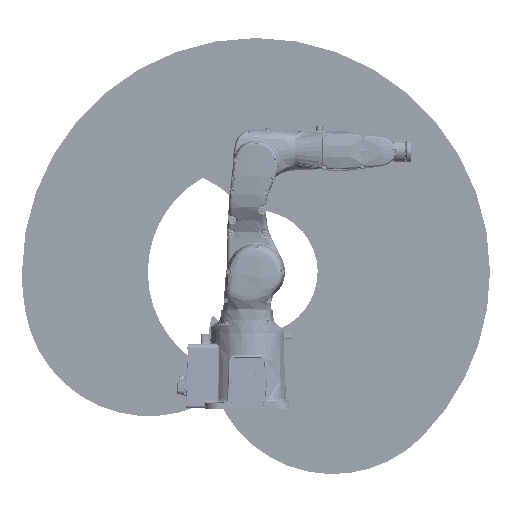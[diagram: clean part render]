
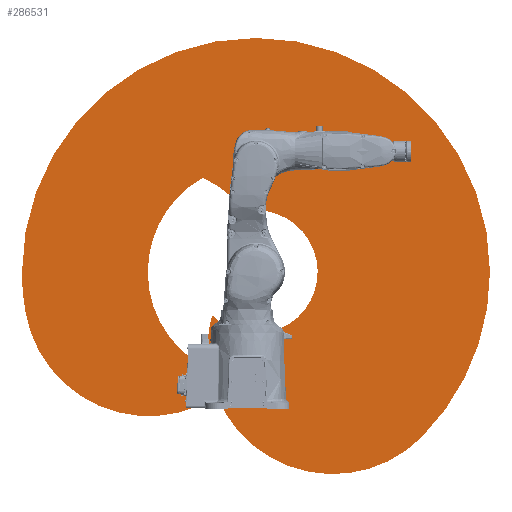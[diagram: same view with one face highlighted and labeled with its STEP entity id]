
A CAD part, top view. The second image highlights one B-rep face of the part: STEP entity #286531.
In plain terms, the highlighted planar face has unit normal (0, 0, 1).
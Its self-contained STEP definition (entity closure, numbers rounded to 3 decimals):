
#11067 = AXIS2_PLACEMENT_3D ( 'NONE', #466625, #466613, #466652 ) ;
#62966 = DIRECTION ( 'NONE',  ( 1., 0., 0. ) ) ;
#63096 = CARTESIAN_POINT ( 'NONE',  ( 249.86, 175.14, -198.5 ) ) ;
#63137 = DIRECTION ( 'NONE',  ( 0., 0., 1. ) ) ;
#63474 = DIRECTION ( 'NONE',  ( 0., 0., -1. ) ) ;
#63549 = CARTESIAN_POINT ( 'NONE',  ( 249.86, 175.14, -198.5 ) ) ;
#63618 = DIRECTION ( 'NONE',  ( 1., 0., 0. ) ) ;
#286531 = ADVANCED_FACE ( 'NONE', ( #466404, #466470 ), #466412, .T. ) ;
#286535 = CARTESIAN_POINT ( 'NONE',  ( 25., 400., -198.5 ) ) ;
#286778 = DIRECTION ( 'NONE',  ( 1., 0., 0. ) ) ;
#286871 = DIRECTION ( 'NONE',  ( 0., 0., 1. ) ) ;
#288110 = DIRECTION ( 'NONE',  ( 1., 0., 0. ) ) ;
#288158 = DIRECTION ( 'NONE',  ( 0., 0., 1. ) ) ;
#288232 = CARTESIAN_POINT ( 'NONE',  ( 25., 400., -198.5 ) ) ;
#298031 = CARTESIAN_POINT ( 'NONE',  ( -111.762, 114.478, -198.5 ) ) ;
#298396 = CARTESIAN_POINT ( 'NONE',  ( 709.674, 400., -198.5 ) ) ;
#299406 = CARTESIAN_POINT ( 'NONE',  ( 509.138, -84.138, -198.5 ) ) ;
#299450 = CARTESIAN_POINT ( 'NONE',  ( -291.585, 400., -198.5 ) ) ;
#299613 = CARTESIAN_POINT ( 'NONE',  ( -130.442, 675.797, -198.5 ) ) ;
#299709 = CIRCLE ( 'NONE', #299739, 684.674 ) ;
#299739 = AXIS2_PLACEMENT_3D ( 'NONE', #673186, #673269, #673289 ) ;
#299900 = CARTESIAN_POINT ( 'NONE',  ( -5.142, 577.902, -198.5 ) ) ;
#300508 = CARTESIAN_POINT ( 'NONE',  ( -116.814, 175.14, -198.5 ) ) ;
#301258 = CARTESIAN_POINT ( 'NONE',  ( -649.273, 281.108, -198.5 ) ) ;
#301475 = CARTESIAN_POINT ( 'NONE',  ( -103.44, 273.269, -198.5 ) ) ;
#301602 = CARTESIAN_POINT ( 'NONE',  ( -659.674, 400., -198.5 ) ) ;
#301937 = CARTESIAN_POINT ( 'NONE',  ( -89.604, 36.524, -198.5 ) ) ;
#312813 = AXIS2_PLACEMENT_3D ( 'NONE', #286535, #286871, #286778 ) ;
#312922 = AXIS2_PLACEMENT_3D ( 'NONE', #288232, #288158, #288110 ) ;
#313020 = CIRCLE ( 'NONE', #312813, 180.437 ) ;
#313037 = CIRCLE ( 'NONE', #312922, 316.585 ) ;
#313371 = CIRCLE ( 'NONE', #313376, 684.674 ) ;
#313376 = AXIS2_PLACEMENT_3D ( 'NONE', #506929, #506749, #507006 ) ;
#315423 = CIRCLE ( 'NONE', #315659, 316.585 ) ;
#315659 = AXIS2_PLACEMENT_3D ( 'NONE', #644036, #643991, #644112 ) ;
#315706 = CIRCLE ( 'NONE', #315776, 366.674 ) ;
#315776 = AXIS2_PLACEMENT_3D ( 'NONE', #644518, #644492, #644611 ) ;
#316033 = CIRCLE ( 'NONE', #316291, 366.674 ) ;
#316291 = AXIS2_PLACEMENT_3D ( 'NONE', #645571, #645594, #645563 ) ;
#317486 = AXIS2_PLACEMENT_3D ( 'NONE', #63096, #63137, #62966 ) ;
#317537 = CIRCLE ( 'NONE', #317486, 366.674 ) ;
#317578 = AXIS2_PLACEMENT_3D ( 'NONE', #63549, #63474, #63618 ) ;
#317603 = AXIS2_PLACEMENT_3D ( 'NONE', #535694, #536085, #644505 ) ;
#317696 = CIRCLE ( 'NONE', #317578, 366.674 ) ;
#317812 = CIRCLE ( 'NONE', #317603, 366.674 ) ;
#364210 = EDGE_CURVE ( 'NONE', #612414, #613285, #705583, .T. ) ;
#432569 = EDGE_CURVE ( 'NONE', #613285, #613230, #299709, .T. ) ;
#432879 = EDGE_CURVE ( 'NONE', #612659, #612675, #315423, .T. ) ;
#432997 = EDGE_CURVE ( 'NONE', #612336, #613022, #315706, .T. ) ;
#433190 = EDGE_CURVE ( 'NONE', #612792, #612659, #316033, .T. ) ;
#433621 = EDGE_CURVE ( 'NONE', #613230, #613398, #317812, .T. ) ;
#433641 = EDGE_CURVE ( 'NONE', #613398, #612717, #317537, .T. ) ;
#433715 = EDGE_CURVE ( 'NONE', #613022, #613316, #317696, .T. ) ;
#434112 = EDGE_CURVE ( 'NONE', #613316, #612792, #313020, .T. ) ;
#434215 = EDGE_CURVE ( 'NONE', #612675, #612336, #313037, .T. ) ;
#434466 = EDGE_CURVE ( 'NONE', #612717, #612414, #313371, .T. ) ;
#466404 = FACE_OUTER_BOUND ( 'NONE', #621617, .T. ) ;
#466412 = PLANE ( 'NONE',  #11067 ) ;
#466470 = FACE_BOUND ( 'NONE', #621367, .T. ) ;
#466613 = DIRECTION ( 'NONE',  ( 0., 0., 1. ) ) ;
#466625 = CARTESIAN_POINT ( 'NONE',  ( -19.154, 259.96, -198.5 ) ) ;
#466652 = DIRECTION ( 'NONE',  ( 1., 0., 0. ) ) ;
#474344 = ORIENTED_EDGE ( 'NONE', *, *, #434466, .T. ) ;
#474483 = ORIENTED_EDGE ( 'NONE', *, *, #433641, .T. ) ;
#474623 = ORIENTED_EDGE ( 'NONE', *, *, #432997, .F. ) ;
#474655 = ORIENTED_EDGE ( 'NONE', *, *, #364210, .T. ) ;
#474665 = ORIENTED_EDGE ( 'NONE', *, *, #433190, .F. ) ;
#474678 = ORIENTED_EDGE ( 'NONE', *, *, #432569, .T. ) ;
#474822 = ORIENTED_EDGE ( 'NONE', *, *, #434112, .F. ) ;
#474829 = ORIENTED_EDGE ( 'NONE', *, *, #434215, .F. ) ;
#474832 = ORIENTED_EDGE ( 'NONE', *, *, #432879, .F. ) ;
#475002 = ORIENTED_EDGE ( 'NONE', *, *, #433715, .F. ) ;
#475089 = ORIENTED_EDGE ( 'NONE', *, *, #433621, .T. ) ;
#487568 = CARTESIAN_POINT ( 'NONE',  ( 25., 400., -198.5 ) ) ;
#487588 = DIRECTION ( 'NONE',  ( 1., 0., 0. ) ) ;
#487729 = DIRECTION ( 'NONE',  ( 0., 0., 1. ) ) ;
#506749 = DIRECTION ( 'NONE',  ( 0., 0., 1. ) ) ;
#506929 = CARTESIAN_POINT ( 'NONE',  ( 25., 400., -198.5 ) ) ;
#507006 = DIRECTION ( 'NONE',  ( 1., 0., 0. ) ) ;
#535694 = CARTESIAN_POINT ( 'NONE',  ( -288.169, 344.78, -198.5 ) ) ;
#536085 = DIRECTION ( 'NONE',  ( 0., 0., 1. ) ) ;
#612336 = VERTEX_POINT ( 'NONE', #298031 ) ;
#612414 = VERTEX_POINT ( 'NONE', #298396 ) ;
#612659 = VERTEX_POINT ( 'NONE', #299613 ) ;
#612675 = VERTEX_POINT ( 'NONE', #299450 ) ;
#612717 = VERTEX_POINT ( 'NONE', #299406 ) ;
#612792 = VERTEX_POINT ( 'NONE', #299900 ) ;
#613022 = VERTEX_POINT ( 'NONE', #300508 ) ;
#613230 = VERTEX_POINT ( 'NONE', #301258 ) ;
#613285 = VERTEX_POINT ( 'NONE', #301602 ) ;
#613316 = VERTEX_POINT ( 'NONE', #301475 ) ;
#613398 = VERTEX_POINT ( 'NONE', #301937 ) ;
#621367 = EDGE_LOOP ( 'NONE', ( #474665, #474822, #475002, #474623, #474829, #474832 ) ) ;
#621617 = EDGE_LOOP ( 'NONE', ( #475089, #474483, #474344, #474655, #474678 ) ) ;
#643991 = DIRECTION ( 'NONE',  ( 0., 0., 1. ) ) ;
#644036 = CARTESIAN_POINT ( 'NONE',  ( 25., 400., -198.5 ) ) ;
#644112 = DIRECTION ( 'NONE',  ( 1., 0., 0. ) ) ;
#644492 = DIRECTION ( 'NONE',  ( 0., 0., -1. ) ) ;
#644505 = DIRECTION ( 'NONE',  ( 1., 0., 0. ) ) ;
#644518 = CARTESIAN_POINT ( 'NONE',  ( 249.86, 175.14, -198.5 ) ) ;
#644611 = DIRECTION ( 'NONE',  ( 1., 0., 0. ) ) ;
#645563 = DIRECTION ( 'NONE',  ( 1., 0., 0. ) ) ;
#645571 = CARTESIAN_POINT ( 'NONE',  ( -288.169, 344.78, -198.5 ) ) ;
#645594 = DIRECTION ( 'NONE',  ( 0., 0., 1. ) ) ;
#673186 = CARTESIAN_POINT ( 'NONE',  ( 25., 400., -198.5 ) ) ;
#673269 = DIRECTION ( 'NONE',  ( 0., 0., 1. ) ) ;
#673289 = DIRECTION ( 'NONE',  ( 1., 0., 0. ) ) ;
#705583 = CIRCLE ( 'NONE', #705585, 684.674 ) ;
#705585 = AXIS2_PLACEMENT_3D ( 'NONE', #487568, #487729, #487588 ) ;
